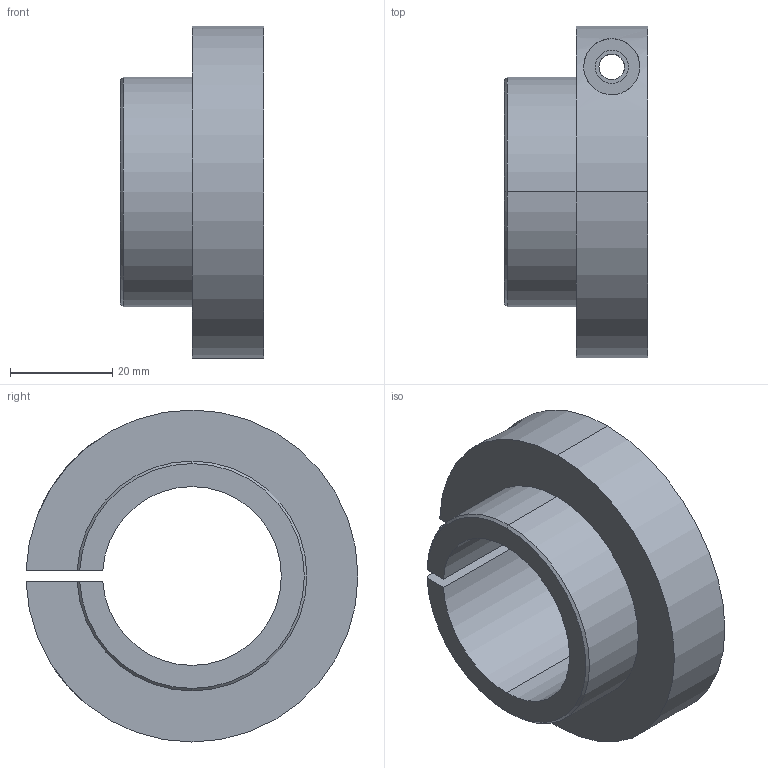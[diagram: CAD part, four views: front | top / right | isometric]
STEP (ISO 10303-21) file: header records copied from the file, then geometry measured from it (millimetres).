
FILE_DESCRIPTION (( 'STEP AP203' ), '1' );
FILE_NAME ('CY-DD-B011.step', '2023-12-27T04:44:27', ( '1' ), ( '' ), 'SwSTEP 2.0', 'SolidWorks 2022', '' );
FILE_SCHEMA (( 'CONFIG_CONTROL_DESIGN' ));
Length unit declared in the file: millimetre
Products named in the file (1): CY-DD-B011
Bounding box: 28 x 64.98 x 65 mm (x, y, z)
Volume: 39224.7 mm3; surface area: 13721.2 mm2
Topology: 1 solids, 1 shells, 24 faces, 61 edges, 40 vertices
Faces by surface type: cylinder 15, plane 6, cone 3
Entity records: 959 total; most frequent: CARTESIAN_POINT 274, DIRECTION 134, ORIENTED_EDGE 122, EDGE_CURVE 61, AXIS2_PLACEMENT_3D 54, VERTEX_POINT 40, CIRCLE 29, EDGE_LOOP 29
